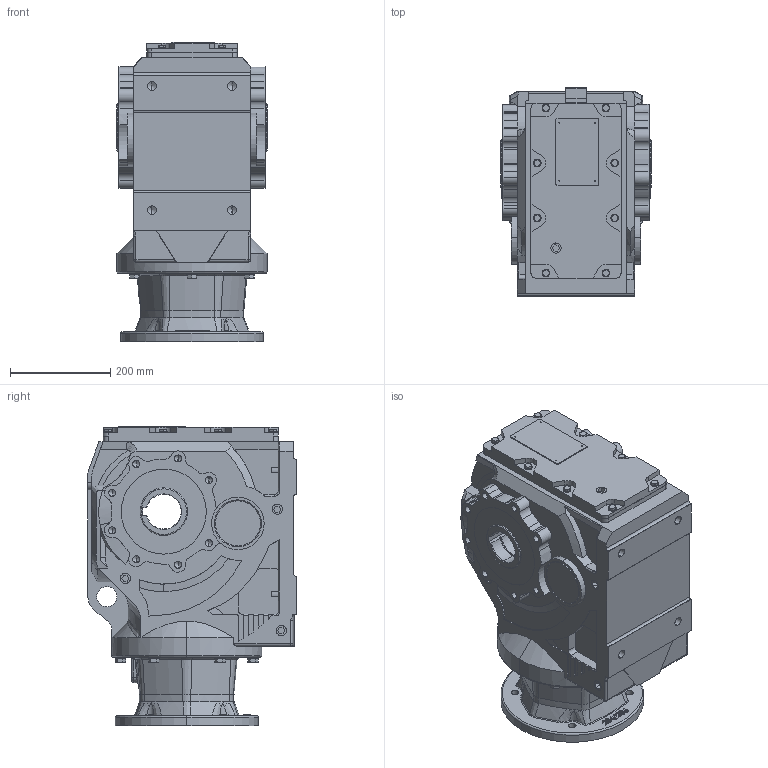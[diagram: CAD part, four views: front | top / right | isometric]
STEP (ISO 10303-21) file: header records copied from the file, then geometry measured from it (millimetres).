
FILE_DESCRIPTION (( 'STEP AP203' ), '1' );
FILE_NAME ('KAN97-284-6TC.STEP', '2022-04-11T02:53:12', ( 'Microsoft' ), ( 'Microsoft' ), 'SwSTEP 2.0', 'SolidWorks 2012', '' );
FILE_SCHEMA (( 'CONFIG_CONTROL_DESIGN' ));
Length unit declared in the file: millimetre
Products named in the file (1): KAN97-284-6TC
Bounding box: 300 x 417.1 x 599.5 mm (x, y, z)
Volume: 44504446.8 mm3; surface area: 1210507.8 mm2
Topology: 1 solids, 40 shells, 1577 faces, 4000 edges, 2525 vertices
Faces by surface type: plane 611, cylinder 557, cone 225, bspline 157, torus 24, sphere 3
Entity records: 56135 total; most frequent: CARTESIAN_POINT 19054, ORIENTED_EDGE 7814, DIRECTION 7502, EDGE_CURVE 3907, AXIS2_PLACEMENT_3D 2750, VERTEX_POINT 2525, LINE 2002, VECTOR 2002
